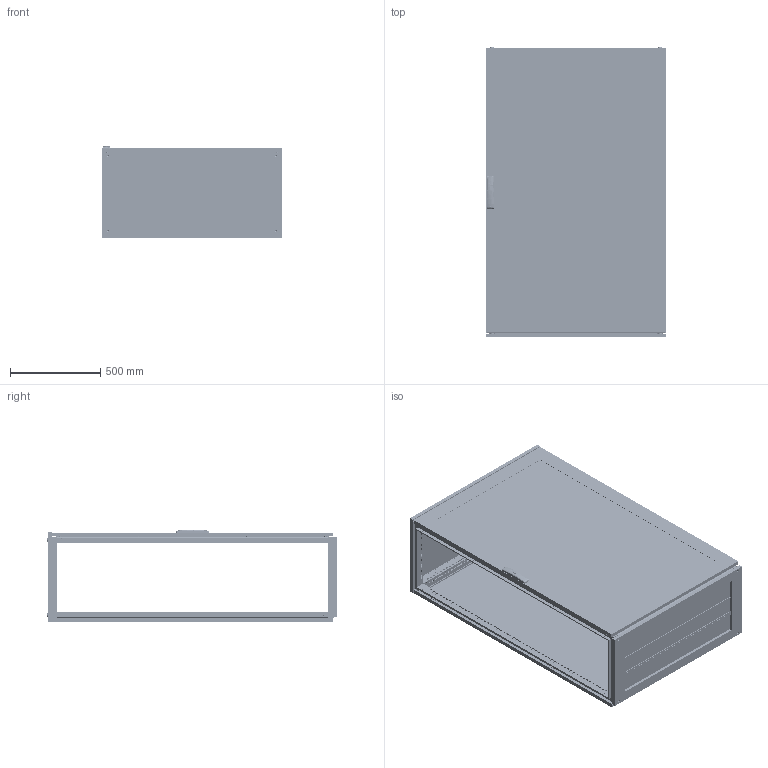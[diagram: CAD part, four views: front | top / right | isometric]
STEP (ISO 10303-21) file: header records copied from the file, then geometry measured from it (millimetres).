
FILE_DESCRIPTION (( 'STEP AP203' ), '1' );
FILE_NAME ('R5CQEN16105AX +.STEP', '2025-05-07T13:03:18', ( '' ), ( '' ), 'SwSTEP 2.0', 'SolidWorks 2022', '' );
FILE_SCHEMA (( 'CONFIG_CONTROL_DESIGN' ));
Length unit declared in the file: millimetre
Products named in the file (65): M6x10 DIN 912 HX cl.8,8 Zinc_straight; М6х12 A5100231_straight; RB.2702.00.00.0 simple; RB.0562.01.01.0 simple_-11; RB.0054.01.01.0 simple_-13; RB.0528.00.01.0 simple_-03; TPA.08.0083.00.00.0 simple; AC00C446-R; M6x10 DIN 7500 M Torx cl.5.8 Zinc_straight; RB.2357.00.00.0 simple_-07; PF 5x10 KTB simple_1000х500; M6 MGR-MKO-0625 simple_Thread; RB.2969.00.00.0 СБ simple; RB.2455.00.00.0 simple_-04; RB.1957.00.00.0 simple_-15; TPA.08.0084.00.00.0 simple; RB.0562.01.00.0 СБ simple_-11; RB.2680.00.00.0 СБ simple; RB.2456.00.00.0 simple_-01; 4.8x13 DIN 7981 PH Zinc_straight; RB.2686.00.00.0 simple; RB.2499.00.00.0 СБ simple_-25; R5NCRE-Assem simple_R5NCRE16100; Glue CPTE simple_1600x1000; TPA.08.0139.00.01.0 simple; PF 7x14 CRE simple_1600x1000; PF 7,5x15 CPE simple_1600x1000; RB.2680.00.01.0 simple; RB.1867.01.00.0 СБ simple_-59; M8x12 AC00C476 cl.8,8 Zinc_stright; RB.0528.04.01.0 simple; RB.2685.00.00.0 simple_-01; RB.2172.00.00.1 simple; Pin 4x16 DIN 7 AISI 303 (A1) simple; R5NCPTE - Assem simple_R5NCPTE16100; R5CQEN16105AX +; RB.1633.00.01.0 simple_-04; ATOS Traction guide ILY03.35; RB.0562.00.00.0 СБ simple_-11; RB.2528.00.00.0 simple_-03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
Assembly tree (176 placements, depth 5):
  R5CQEN16105AX +
    R5NCPTE - Assem simple_R5NCPTE16100
      RB.0562.00.00.0 СБ simple_-11
        RB.0562.01.00.0 СБ simple_-11
          RB.0562.01.01.0 simple_-11
          М6х12 A5100231_straight  x9
          RB.2702.00.00.0 simple  x4
          PF 7,5x15 CPE simple_1600x1000
          Glass CPTE_1600x1000
          Glue CPTE simple_1600x1000
        Square cap 20x20 simple  x2
        M6x15 Erickson cl.4,8 Zinc  x3
        RB.0528.00.01.0 simple_-03  x2
        ATOS Traction guide ILY03.35  x4
        RB.2357.00.00.0 simple_-07
        RB.2680.00.00.0 СБ simple
          TPA.08.0139.00.01.0 simple
          RB.2680.00.01.0 simple
          RB.2680.00.02.0 simple  x2
        TPA.08.0139.00.03.0  x2
        M6 DIN 985 cl.6,0 Zinc_straight  x4
        4,0x16 F Torx Zinc (ART 88200)_thread  x2
        RB.0528.04.00.0 СБ simple  x2
          RB.0528.04.01.0 simple
          Pressing stud FH-M6-12_M6x12mm
      M6x10 DIN 912 HX cl.8,8 Zinc_straight  x8
      4.8x13 DIN 7981 PH Zinc_straight
      7 DIN 6799 Zinc simple  x4
      RB.2968.00.00.0 simple  x4
      RB.2969.00.00.0 СБ simple  x4
        RB.2969.00.01.0 simple
        Pin 4x16 DIN 7 AISI 303 (A1) simple
        M6 MGR-MKO-0625 simple_Thread
      AC00C446-R
      RB.2696.00.00.0 simple  x4
      7 DIN 6799 Zinc  x4
    R5NCRE-Assem simple_R5NCRE16100
      RB.2052.00.00.0 СБ simple_-13
        RB.2052.01.00.0 СБ simple_-13
          RB.0054.01.01.0 simple_-13
          М6х12 A5100231_straight  x4
        PF 7x14 CRE simple_1600x1000
      RB.2172.00.00.1 simple  x8
      M6x10 DIN 7500 E HX cl.5.8 Zinc_straight  x8
      M6x10 DIN 7500 M Torx cl.5.8 Zinc_straight  x8
    R5NKMN - Assem simple_R5NKMN16 (1000х500)
      RB.2528.00.00.0 simple_-03  x4
    R5NKTB - Assem simple_H=1600 R5NKTB105
      RB.2499.00.00.0 СБ simple_-25
        RB.2499.01.00.0 СБ simple_-24
          RB.1633.00.01.0 simple_-04  x2
          RB.1633.00.02.0 simple_-01  x2
          PF 5x10 KTB simple_1000х500
        RB.2457.00.00.0 СБ simple_-25
          RB.2455.00.00.0 simple_-04  x2
          RB.2456.00.00.0 simple_-01  x2
          TPA.08.0084.00.00.0 simple  x2
          TPA.08.0083.00.00.0 simple  x2
          M8x12 AC00C476 cl.8,8 Zinc_stright  x4
        RB.1957.00.00.0 simple_-15  x3
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Bounding box: 1000 x 1613.3 x 514.74 mm (x, y, z)
Volume: 17819871.7 mm3; surface area: 15204910.5 mm2
Topology: 179 solids, 195 shells, 21597 faces, 61175 edges, 40260 vertices
Faces by surface type: plane 12011, cylinder 8035, cone 714, bspline 435, torus 368, sphere 34
Entity records: 217349 total; most frequent: CARTESIAN_POINT 54110, ORIENTED_EDGE 32282, DIRECTION 30813, EDGE_CURVE 16167, VERTEX_POINT 10698, AXIS2_PLACEMENT_3D 10376, VECTOR 10061, LINE 10061
